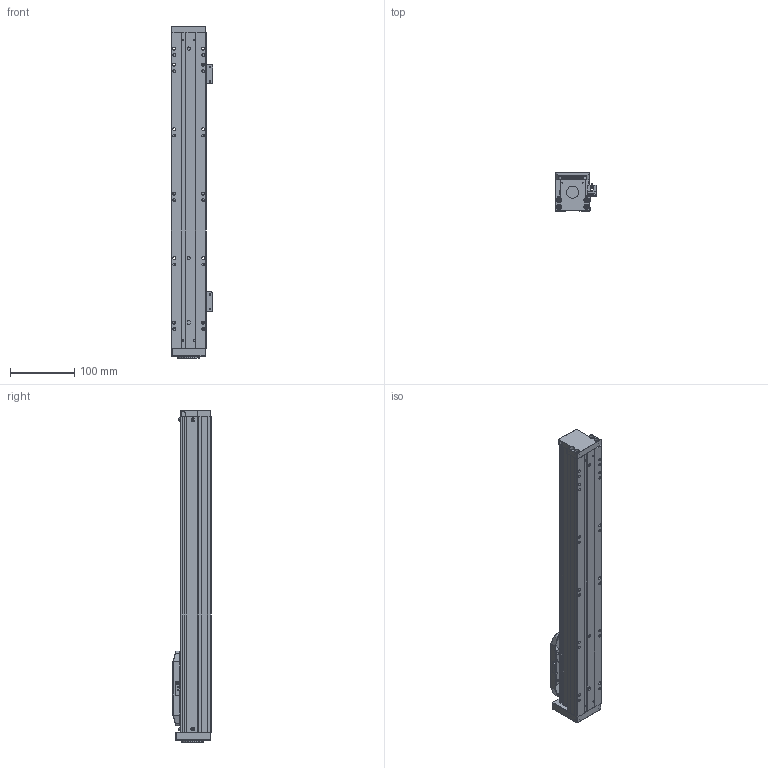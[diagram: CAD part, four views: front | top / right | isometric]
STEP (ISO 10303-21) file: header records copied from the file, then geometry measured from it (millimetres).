
FILE_DESCRIPTION (( 'STEP AP203' ), '1' );
FILE_NAME ('KTH5-L10-S350.STEP', '2019-12-19T08:21:35', ( '微软用户' ), ( '微软中国' ), 'SwSTEP 2.0', 'SolidWorks 2017', '' );
FILE_SCHEMA (( 'CONFIG_CONTROL_DESIGN' ));
Length unit declared in the file: millimetre
Products named in the file (16): EE-SX674; LES50-013癹弇菜; EE-SX674WR嫖萇羲壽假蚾啣; 詩湍; KTH5-L10-S350; 詩湍揤啣; GB╱T 70.1-2008[内六角圆柱头螺钉M4×16]_M4×16; LES50-001菁釱; GB╱T 70.2-2008[内六角平圆头螺钉M3×10]_M3×10; LES50-004賑釱; ヶ裔-党蜊唳; 耜啣; 粣創釱-郔笝唳20190813; 階裔; 嫖萇羲壽諉揖え; 棠沭
Assembly tree (31 placements, depth 2):
  KTH5-L10-S350
    LES50-001菁釱
    LES50-004賑釱
    耜啣  x2
    階裔
    棠沭  x2
    LES50-013癹弇菜  x2
    詩湍
    詩湍揤啣  x2
    GB╱T 70.1-2008[内六角圆柱头螺钉M4×16]_M4×16  x4
    GB╱T 70.2-2008[内六角平圆头螺钉M3×10]_M3×10  x8
    ヶ裔-党蜊唳
    粣創釱-郔笝唳20190813
    嫖萇羲壽諉揖え
    EE-SX674  x2
    EE-SX674WR嫖萇羲壽假蚾啣  x2
Bounding box: 64.25 x 60 x 515 mm (x, y, z)
Volume: 522407.4 mm3; surface area: 287039 mm2
Topology: 31 solids, 31 shells, 1393 faces, 3372 edges, 2066 vertices
Faces by surface type: plane 654, cylinder 447, cone 228, torus 36, sphere 16, bspline 12
Entity records: 32010 total; most frequent: CARTESIAN_POINT 5693, DIRECTION 5204, ORIENTED_EDGE 4820, EDGE_CURVE 2410, AXIS2_PLACEMENT_3D 1832, VECTOR 1540, LINE 1540, VERTEX_POINT 1531
